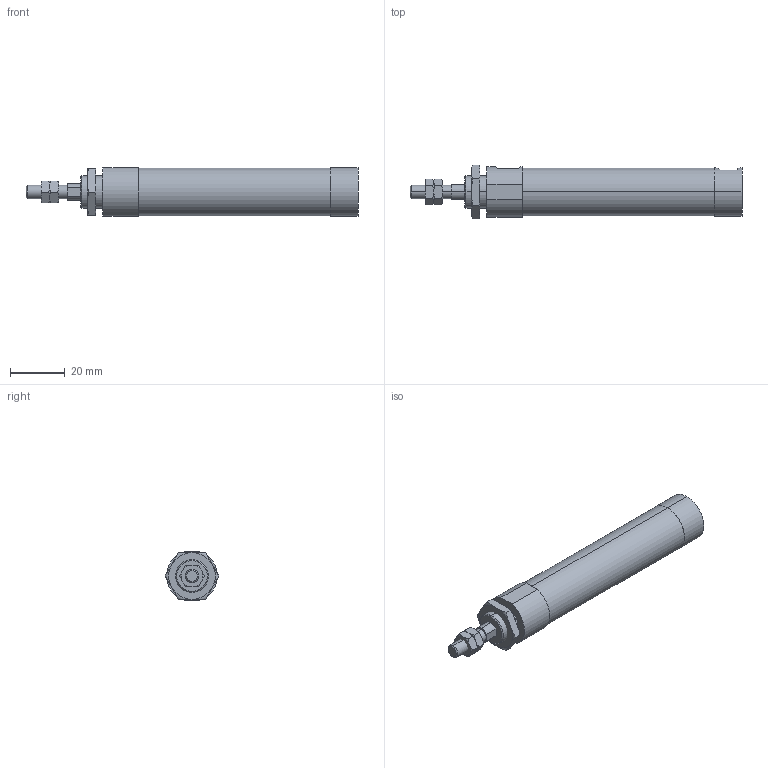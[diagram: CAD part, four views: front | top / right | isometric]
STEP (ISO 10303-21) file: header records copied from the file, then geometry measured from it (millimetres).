
FILE_DESCRIPTION (( 'STEP AP203' ), '1' );
FILE_NAME ('ZGU2-16-45-N.STEP', '2016-03-31T01:00:35', ( '' ), ( '' ), 'SwSTEP 2.0', 'SolidWorks 2014', '' );
FILE_SCHEMA (( 'CONFIG_CONTROL_DESIGN' ));
Length unit declared in the file: millimetre
Products named in the file (4): ZGU2-16-45-N; ZGU2-16-45
Assembly tree (4 placements, depth 2):
  ZGU2-16-45-N
    ZGU2-16-45
    (unnamed)  x2
    (unnamed)
Bounding box: 121 x 19.63 x 17.6 mm (x, y, z)
Volume: 24292.5 mm3; surface area: 7506 mm2
Topology: 4 solids, 4 shells, 108 faces, 235 edges, 140 vertices
Faces by surface type: plane 41, torus 36, cylinder 23, cone 8
Entity records: 3055 total; most frequent: CARTESIAN_POINT 800, DIRECTION 387, ORIENTED_EDGE 366, EDGE_CURVE 183, AXIS2_PLACEMENT_3D 163, VERTEX_POINT 112, EDGE_LOOP 99, FACE_OUTER_BOUND 86
